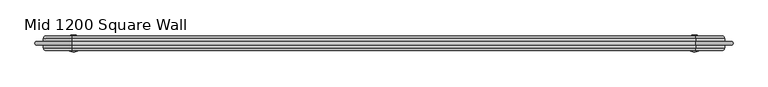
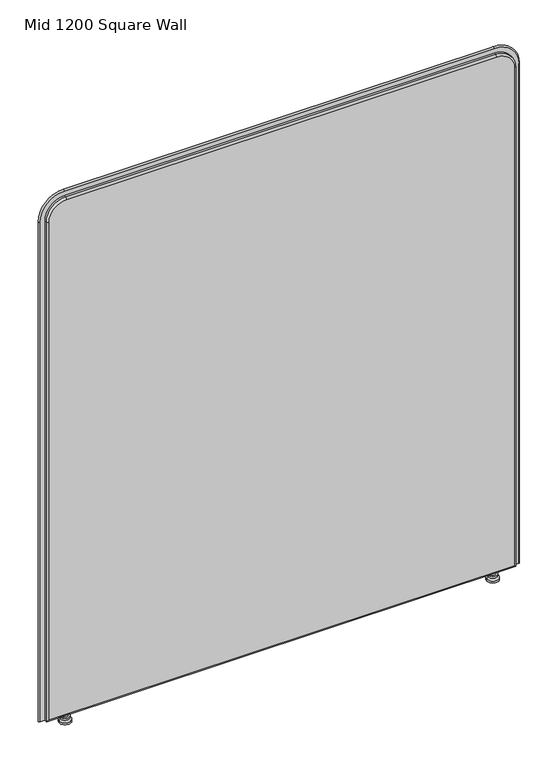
"""IFC4 building model written with IfcOpenShell, lengths in millimetres: furniture geometry, DBLTD_Sixteen3_PrivacyScreens_Artus_Square : Mid 1200 Square Wall."""

from ifc_helpers import new_model, si_unit, point, frame, origin, place, context, project, spatial, polyline, circle_curve, ellipse_curve, trimmed, source, transform, mapped, element, save
from ifc_brep_helpers import plane_surface, cylinder_surface, revolved_surface, advanced_brep


def mid_1200_square_wall_6a94bbc1(model_context):
    return source(origin(), model_context, "Body", "AdvancedBrep", [
        advanced_brep(
        [(542.2938623, -820.0, 22.0), (535.2938623, -820.0, 22.0), (549.2938623, -820.0, 22.0), (535.2938623, -820.0, 15.0), (549.2938623, -820.0, 15.0), (530.8431626, -820.0, 15.0), (553.744562, -820.0, 15.0), (530.8431626, -820.0, 10.0), (553.744562, -820.0, 10.0), (527.2938623, -820.0, 5.0), (557.2938623, -820.0, 5.0), (527.2938623, -820.0, 0.0), (557.2938623, -820.0, 0.0), (542.2938623, -820.0, 0.0)],
        [
            (0, 1),
            (1, 2, circle_curve(frame((542.2938623, -820.0, 22.0), z_axis=(0.0, 0.0, 1.0), x_axis=(1.0, 0.0, 0.0)), 7.0)),
            (2, 0),
            (2, 1, circle_curve(frame((542.2938623, -820.0, 22.0), z_axis=(0.0, 0.0, 1.0), x_axis=(1.0, 0.0, 0.0)), 7.0)),
            (1, 3),
            (3, 4, circle_curve(frame((542.2938623, -820.0, 15.0), z_axis=(0.0, 0.0, 1.0), x_axis=(1.0, 0.0, 0.0)), 7.0)),
            (4, 2),
            (4, 3, circle_curve(frame((542.2938623, -820.0, 15.0), z_axis=(0.0, 0.0, 1.0), x_axis=(1.0, 0.0, 0.0)), 7.0)),
            (3, 5),
            (5, 6, circle_curve(frame((542.2938623, -820.0, 15.0), z_axis=(0.0, 0.0, 1.0), x_axis=(1.0, 0.0, 0.0)), 11.4506997)),
            (6, 4),
            (6, 5, circle_curve(frame((542.2938623, -820.0, 15.0), z_axis=(0.0, 0.0, 1.0), x_axis=(1.0, 0.0, 0.0)), 11.4506997)),
            (5, 7),
            (7, 8, circle_curve(frame((542.2938623, -820.0, 10.0), z_axis=(0.0, 0.0, 1.0), x_axis=(1.0, 0.0, 0.0)), 11.4506997)),
            (8, 6),
            (8, 7, circle_curve(frame((542.2938623, -820.0, 10.0), z_axis=(0.0, 0.0, 1.0), x_axis=(1.0, 0.0, 0.0)), 11.4506997)),
            (7, 9),
            (9, 10, circle_curve(frame((542.2938623, -820.0, 5.0), z_axis=(0.0, 0.0, 1.0), x_axis=(1.0, 0.0, 0.0)), 15.0)),
            (10, 8),
            (10, 9, circle_curve(frame((542.2938623, -820.0, 5.0), z_axis=(0.0, 0.0, 1.0), x_axis=(1.0, 0.0, 0.0)), 15.0)),
            (9, 11),
            (11, 12, circle_curve(frame((542.2938623, -820.0, 0.0), z_axis=(0.0, 0.0, 1.0), x_axis=(1.0, 0.0, 0.0)), 15.0)),
            (12, 10),
            (12, 11, circle_curve(frame((542.2938623, -820.0, 0.0), z_axis=(0.0, 0.0, 1.0), x_axis=(1.0, 0.0, 0.0)), 15.0)),
            (11, 13),
            (13, 12),
        ],
        [
            plane_surface(frame((542.2938623, -820.0, 22.0), z_axis=(0.0, 0.0, 1.0), x_axis=(1.0, 0.0, 0.0))),
            cylinder_surface(frame((542.2938623, -820.0, 5.0), z_axis=(0.0, 0.0, 1.0), x_axis=(1.0, 0.0, 0.0)), 7.0),
            plane_surface(frame((542.2938623, -820.0, 15.0), z_axis=(0.0, 0.0, 1.0), x_axis=(1.0, 0.0, 0.0))),
            cylinder_surface(frame((542.2938623, -820.0, 5.0), z_axis=(0.0, 0.0, 1.0), x_axis=(1.0, 0.0, 0.0)), 11.4506997),
            revolved_surface(polyline([(557.2938623, -820.0, 5.0), (553.744562, -820.0, 10.0)]), (542.2938623, -820.0, 5.0), (0.0, 0.0, 1.0)),
            cylinder_surface(frame((542.2938623, -820.0, 5.0), z_axis=(0.0, 0.0, 1.0), x_axis=(1.0, 0.0, 0.0)), 15.0),
            plane_surface(frame((542.2938623, -820.0, 0.0), z_axis=(0.0, 0.0, -1.0), x_axis=(1.0, 0.0, 0.0))),
        ],
        [
            (0, [[1, 2, 3]]),
            (0, [[-3, 4, -1]]),
            (1, [[5, 6, 7, -2]]),
            (1, [[-7, 8, -5, -4]]),
            (2, [[9, 10, 11, -6]]),
            (2, [[-11, 12, -9, -8]]),
            (3, [[13, 14, 15, -10]]),
            (3, [[-15, 16, -13, -12]]),
            (4, [[17, 18, 19, -14]]),
            (4, [[-19, 20, -17, -16]]),
            (5, [[21, 22, 23, -18]]),
            (5, [[-23, 24, -21, -20]]),
            (6, [[25, 26, -22]]),
            (6, [[-26, -25, -24]]),
        ],
    ),
        advanced_brep(
        [(-535.2938623, -820.0, 22.0), (-542.2938623, -820.0, 22.0), (-549.2938623, -820.0, 22.0), (-535.2938623, -820.0, 15.0), (-549.2938623, -820.0, 15.0), (-530.8431626, -820.0, 15.0), (-553.744562, -820.0, 15.0), (-530.8431626, -820.0, 10.0), (-553.744562, -820.0, 10.0), (-527.2938623, -820.0, 5.0), (-557.2938623, -820.0, 5.0), (-527.2938623, -820.0, 0.0), (-557.2938623, -820.0, 0.0), (-542.2938623, -820.0, 0.0)],
        [
            (0, 1),
            (1, 2),
            (2, 0, circle_curve(frame((-542.2938623, -820.0, 22.0), z_axis=(0.0, 0.0, 1.0), x_axis=(-1.0, 0.0, 0.0)), 7.0)),
            (0, 2, circle_curve(frame((-542.2938623, -820.0, 22.0), z_axis=(0.0, 0.0, 1.0), x_axis=(-1.0, 0.0, 0.0)), 7.0)),
            (3, 0),
            (2, 4),
            (4, 3, circle_curve(frame((-542.2938623, -820.0, 15.0), z_axis=(0.0, 0.0, 1.0), x_axis=(-1.0, 0.0, 0.0)), 7.0)),
            (3, 4, circle_curve(frame((-542.2938623, -820.0, 15.0), z_axis=(0.0, 0.0, 1.0), x_axis=(-1.0, 0.0, 0.0)), 7.0)),
            (5, 3),
            (4, 6),
            (6, 5, circle_curve(frame((-542.2938623, -820.0, 15.0), z_axis=(0.0, 0.0, 1.0), x_axis=(-1.0, 0.0, 0.0)), 11.4506997)),
            (5, 6, circle_curve(frame((-542.2938623, -820.0, 15.0), z_axis=(0.0, 0.0, 1.0), x_axis=(-1.0, 0.0, 0.0)), 11.4506997)),
            (7, 5),
            (6, 8),
            (8, 7, circle_curve(frame((-542.2938623, -820.0, 10.0), z_axis=(0.0, 0.0, 1.0), x_axis=(-1.0, 0.0, 0.0)), 11.4506997)),
            (7, 8, circle_curve(frame((-542.2938623, -820.0, 10.0), z_axis=(0.0, 0.0, 1.0), x_axis=(-1.0, 0.0, 0.0)), 11.4506997)),
            (9, 7),
            (8, 10),
            (10, 9, circle_curve(frame((-542.2938623, -820.0, 5.0), z_axis=(0.0, 0.0, 1.0), x_axis=(-1.0, 0.0, 0.0)), 15.0)),
            (9, 10, circle_curve(frame((-542.2938623, -820.0, 5.0), z_axis=(0.0, 0.0, 1.0), x_axis=(-1.0, 0.0, 0.0)), 15.0)),
            (11, 9),
            (10, 12),
            (12, 11, circle_curve(frame((-542.2938623, -820.0, 0.0), z_axis=(0.0, 0.0, 1.0), x_axis=(-1.0, 0.0, 0.0)), 15.0)),
            (11, 12, circle_curve(frame((-542.2938623, -820.0, 0.0), z_axis=(0.0, 0.0, 1.0), x_axis=(-1.0, 0.0, 0.0)), 15.0)),
            (13, 11),
            (12, 13),
        ],
        [
            plane_surface(frame((-542.2938623, -820.0, 22.0), z_axis=(0.0, 0.0, 1.0), x_axis=(-1.0, 0.0, 0.0))),
            cylinder_surface(frame((-542.2938623, -820.0, 5.0), z_axis=(0.0, 0.0, -1.0), x_axis=(-1.0, 0.0, 0.0)), 7.0),
            plane_surface(frame((-542.2938623, -820.0, 15.0), z_axis=(0.0, 0.0, 1.0), x_axis=(-1.0, 0.0, 0.0))),
            cylinder_surface(frame((-542.2938623, -820.0, 5.0), z_axis=(0.0, 0.0, -1.0), x_axis=(-1.0, 0.0, 0.0)), 11.4506997),
            revolved_surface(polyline([(-553.744562, -820.0, 10.0), (-557.2938623, -820.0, 5.0)]), (-542.2938623, -820.0, 5.0), (0.0, 0.0, -1.0)),
            cylinder_surface(frame((-542.2938623, -820.0, 5.0), z_axis=(0.0, 0.0, -1.0), x_axis=(-1.0, 0.0, 0.0)), 15.0),
            plane_surface(frame((-542.2938623, -820.0, 0.0), z_axis=(0.0, 0.0, -1.0), x_axis=(-1.0, 0.0, 0.0))),
        ],
        [
            (0, [[1, 2, 3]]),
            (0, [[-2, -1, 4]]),
            (1, [[5, -3, 6, 7]]),
            (1, [[-6, -4, -5, 8]]),
            (2, [[9, -7, 10, 11]]),
            (2, [[-10, -8, -9, 12]]),
            (3, [[13, -11, 14, 15]]),
            (3, [[-14, -12, -13, 16]]),
            (4, [[17, -15, 18, 19]]),
            (4, [[-18, -16, -17, 20]]),
            (5, [[21, -19, 22, 23]]),
            (5, [[-22, -20, -21, 24]]),
            (6, [[25, -23, 26]]),
            (6, [[-26, -24, -25]]),
        ],
    ),
        advanced_brep(
        [(-590.0, -807.0, 27.0), (-590.0, -807.0, 1360.0), (-545.0, -807.0, 1405.0), (545.0, -807.0, 1405.0), (590.0, -807.0, 1360.0), (590.0, -807.0, 27.0), (590.0, -833.0, 27.0), (590.0, -833.0, 1360.0), (545.0, -833.0, 1405.0), (-545.0, -833.0, 1405.0), (-590.0, -833.0, 1360.0), (-590.0, -833.0, 27.0), (545.0, -812.0, 1410.0), (-545.0, -812.0, 1410.0), (-545.0, -828.0, 1410.0), (545.0, -828.0, 1410.0), (-595.0, -812.0, 1360.0), (-595.0, -828.0, 1360.0), (-595.0, -812.0, 22.0), (-595.0, -828.0, 22.0), (595.0, -812.0, 22.0), (595.0, -828.0, 22.0), (595.0, -812.0, 1360.0), (595.0, -828.0, 1360.0)],
        [
            (0, 1),
            (1, 2, circle_curve(frame((-545.0, -807.0, 1360.0), z_axis=(0.0, 1.0, 0.0), x_axis=(0.0, 0.0, 1.0)), 45.0)),
            (2, 3),
            (3, 4, circle_curve(frame((545.0, -807.0, 1360.0), z_axis=(0.0, 1.0, 0.0), x_axis=(1.0, 0.0, 0.0)), 45.0)),
            (4, 5),
            (5, 0),
            (6, 7),
            (7, 8, circle_curve(frame((545.0, -833.0, 1360.0), z_axis=(0.0, -1.0, 0.0), x_axis=(1.0, 0.0, 0.0)), 45.0)),
            (8, 9),
            (9, 10, circle_curve(frame((-545.0, -833.0, 1360.0), z_axis=(0.0, -1.0, 0.0), x_axis=(0.0, 0.0, 1.0)), 45.0)),
            (10, 11),
            (11, 6),
            (12, 13),
            (13, 14),
            (14, 15),
            (15, 12),
            (13, 16, circle_curve(frame((-545.0, -812.0, 1360.0), z_axis=(0.0, -1.0, 0.0), x_axis=(1.0, 0.0, 0.0)), 50.0)),
            (16, 17),
            (17, 14, circle_curve(frame((-545.0, -828.0, 1360.0), z_axis=(0.0, 1.0, 0.0), x_axis=(1.0, 0.0, 0.0)), 50.0)),
            (16, 18),
            (18, 19),
            (19, 17),
            (18, 20),
            (20, 21),
            (21, 19),
            (20, 22),
            (22, 23),
            (23, 21),
            (15, 23, circle_curve(frame((545.0, -828.0, 1360.0), z_axis=(0.0, 1.0, 0.0), x_axis=(1.0, 0.0, 0.0)), 50.0)),
            (22, 12, circle_curve(frame((545.0, -812.0, 1360.0), z_axis=(0.0, -1.0, 0.0), x_axis=(1.0, 0.0, 0.0)), 50.0)),
            (18, 0, ellipse_curve(frame((-590.0, -812.0, 27.0), z_axis=(0.7071067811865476, 0.0, -0.7071067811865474), x_axis=(0.7071067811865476, 0.0, 0.7071067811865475)), 7.0710678, 5.0)),
            (5, 20, ellipse_curve(frame((590.0, -812.0, 27.0), z_axis=(-0.7071067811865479, 0.0, -0.707106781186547), x_axis=(0.7071067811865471, 0.0, -0.7071067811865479)), 7.0710678, 5.0)),
            (11, 19, ellipse_curve(frame((-590.0, -828.0, 27.0), z_axis=(0.7071067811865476, 0.0, -0.7071067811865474), x_axis=(0.7071067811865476, 0.0, 0.7071067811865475)), 7.0710678, 5.0)),
            (21, 6, ellipse_curve(frame((590.0, -828.0, 27.0), z_axis=(-0.7071067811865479, 0.0, -0.707106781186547), x_axis=(0.7071067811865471, 0.0, -0.7071067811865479)), 7.0710678, 5.0)),
            (4, 22, circle_curve(frame((590.0, -812.0, 1360.0), z_axis=(0.0, 0.0, -1.0), x_axis=(1.0, 0.0, 0.0)), 5.0)),
            (23, 7, circle_curve(frame((590.0, -828.0, 1360.0), z_axis=(0.0, 0.0, -1.0), x_axis=(1.0, 0.0, 0.0)), 5.0)),
            (3, 12, circle_curve(frame((545.0, -812.0, 1405.0), z_axis=(1.0, 0.0, 0.0), x_axis=(0.0, 0.0, 1.0)), 5.0)),
            (15, 8, circle_curve(frame((545.0, -828.0, 1405.0), z_axis=(1.0, 0.0, 0.0), x_axis=(0.0, 0.0, 1.0)), 5.0)),
            (2, 13, circle_curve(frame((-545.0, -812.0, 1405.0), z_axis=(1.0, 0.0, 0.0), x_axis=(0.0, 0.0, 1.0)), 5.0)),
            (14, 9, circle_curve(frame((-545.0, -828.0, 1405.0), z_axis=(1.0, 0.0, 0.0), x_axis=(0.0, 0.0, 1.0)), 5.0)),
            (1, 16, circle_curve(frame((-590.0, -812.0, 1360.0), z_axis=(0.0, 0.0, 1.0), x_axis=(-1.0, 0.0, 0.0)), 5.0)),
            (17, 10, circle_curve(frame((-590.0, -828.0, 1360.0), z_axis=(0.0, 0.0, 1.0), x_axis=(-1.0, 0.0, 0.0)), 5.0)),
        ],
        [
            plane_surface(frame((-545.0, -807.0, 1410.0), z_axis=(0.0, 1.0, 0.0), x_axis=(-1.0, 0.0, 0.0))),
            plane_surface(frame((-545.0, -833.0, 1410.0), z_axis=(0.0, -1.0, 0.0), x_axis=(1.0, 0.0, 0.0))),
            plane_surface(frame((545.0, -807.0, 1410.0), z_axis=(0.0, 0.0, 1.0), x_axis=(0.0, -1.0, 0.0))),
            cylinder_surface(frame((-545.0, -833.0, 1360.0), z_axis=(0.0, 1.0, 0.0), x_axis=(1.0, 0.0, 0.0)), 50.0),
            plane_surface(frame((-595.0, -807.0, 1360.0), z_axis=(-1.0, 0.0, 0.0), x_axis=(0.0, -1.0, 0.0))),
            plane_surface(frame((-595.0, -807.0, 22.0), z_axis=(0.0, 0.0, -1.0), x_axis=(0.0, -1.0, 0.0))),
            plane_surface(frame((595.0, -807.0, 22.0), z_axis=(1.0, 0.0, 0.0), x_axis=(0.0, -1.0, 0.0))),
            cylinder_surface(frame((545.0, -833.0, 1360.0), z_axis=(0.0, 1.0, 0.0), x_axis=(1.0, 0.0, 0.0)), 50.0),
            cylinder_surface(frame((-595.0, -812.0, 27.0), z_axis=(1.0, 0.0, 0.0), x_axis=(0.0, 0.0, -1.0)), 5.0),
            cylinder_surface(frame((-595.0, -828.0, 27.0), z_axis=(1.0, 0.0, 0.0), x_axis=(0.0, 0.0, -1.0)), 5.0),
            cylinder_surface(frame((590.0, -812.0, 22.0), z_axis=(0.0, 0.0, 1.0), x_axis=(1.0, 0.0, 0.0)), 5.0),
            cylinder_surface(frame((590.0, -828.0, 22.0), z_axis=(0.0, 0.0, 1.0), x_axis=(1.0, 0.0, 0.0)), 5.0),
            revolved_surface(trimmed(ellipse_curve(frame((590.0, -812.0, 1360.0), z_axis=(0.0, 0.0, 1.0), x_axis=(1.0, 0.0, 0.0)), 5.0, 5.0), [point((595.0, -812.0, 1360.0))], [point((590.0, -807.0, 1360.0))], True, "CARTESIAN"), (545.0, -807.0, 1360.0), (0.0, 1.0, 0.0)),
            revolved_surface(trimmed(ellipse_curve(frame((590.0, -828.0, 1360.0), z_axis=(0.0, 0.0, 1.0), x_axis=(1.0, 0.0, 0.0)), 5.0, 5.0), [point((590.0, -833.0, 1360.0))], [point((595.0, -828.0, 1360.0))], True, "CARTESIAN"), (545.0, -807.0, 1360.0), (0.0, 1.0, 0.0)),
            cylinder_surface(frame((545.0, -812.0, 1405.0), z_axis=(-1.0, 0.0, 0.0), x_axis=(0.0, 0.0, 1.0)), 5.0),
            cylinder_surface(frame((545.0, -828.0, 1405.0), z_axis=(-1.0, 0.0, 0.0), x_axis=(0.0, 0.0, 1.0)), 5.0),
            revolved_surface(trimmed(ellipse_curve(frame((-545.0, -812.0, 1405.0), z_axis=(-1.0, 0.0, 0.0), x_axis=(0.0, 0.0, 1.0)), 5.0, 5.0), [point((-545.0, -812.0, 1410.0))], [point((-545.0, -807.0, 1405.0))], True, "CARTESIAN"), (-545.0, -807.0, 1360.0), (0.0, 1.0, 0.0)),
            revolved_surface(trimmed(ellipse_curve(frame((-545.0, -828.0, 1405.0), z_axis=(-1.0, 0.0, 0.0), x_axis=(0.0, 0.0, 1.0)), 5.0, 5.0), [point((-545.0, -833.0, 1405.0))], [point((-545.0, -828.0, 1410.0))], True, "CARTESIAN"), (-545.0, -807.0, 1360.0), (0.0, 1.0, 0.0)),
            cylinder_surface(frame((-590.0, -812.0, 1360.0), z_axis=(0.0, 0.0, -1.0), x_axis=(-1.0, 0.0, 0.0)), 5.0),
            cylinder_surface(frame((-590.0, -828.0, 1360.0), z_axis=(0.0, 0.0, -1.0), x_axis=(-1.0, 0.0, 0.0)), 5.0),
        ],
        [
            (0, [[1, 2, 3, 4, 5, 6]]),
            (1, [[7, 8, 9, 10, 11, 12]]),
            (2, [[13, 14, 15, 16]]),
            (3, [[17, 18, 19, -14]]),
            (4, [[20, 21, 22, -18]]),
            (5, [[23, 24, 25, -21]]),
            (6, [[26, 27, 28, -24]]),
            (7, [[29, -27, 30, -16]]),
            (8, [[-23, 31, -6, 32]]),
            (9, [[-12, 33, -25, 34]]),
            (10, [[-5, 35, -26, -32]]),
            (11, [[-28, 36, -7, -34]]),
            (12, [[-4, 37, -30, -35]]),
            (13, [[-29, 38, -8, -36]]),
            (14, [[-3, 39, -13, -37]]),
            (15, [[-15, 40, -9, -38]]),
            (16, [[-2, 41, -17, -39]]),
            (17, [[-19, 42, -10, -40]]),
            (18, [[-20, -41, -1, -31]]),
            (19, [[-11, -42, -22, -33]]),
        ],
    ),
        advanced_brep(
        [(606.9577057, -823.0, 22.0), (595.0, -823.0, 22.0), (595.0, -817.0, 22.0), (606.9577057, -817.0, 22.0), (606.9577057, -817.0, 1360.0), (606.9577057, -823.0, 1360.0), (595.0, -817.0, 1360.0), (545.0, -817.0, 1410.0), (-545.0, -817.0, 1410.0), (-595.0, -817.0, 1360.0), (-595.0, -817.0, 22.0), (-606.9577057, -817.0, 22.0), (-606.9577057, -817.0, 1360.0), (-545.0, -817.0, 1421.9577057), (545.0, -817.0, 1421.9577057), (595.0, -823.0, 1360.0), (545.0, -823.0, 1421.9577057), (-545.0, -823.0, 1421.9577057), (-606.9577057, -823.0, 1360.0), (-606.9577057, -823.0, 22.0), (-595.0, -823.0, 22.0), (-595.0, -823.0, 1360.0), (-545.0, -823.0, 1410.0), (545.0, -823.0, 1410.0)],
        [
            (0, 1),
            (1, 2),
            (2, 3),
            (3, 0, circle_curve(frame((606.9577057, -820.0, 22.0), z_axis=(0.0, 0.0, -1.0), x_axis=(1.0, 0.0, 0.0)), 3.0)),
            (3, 4),
            (4, 5, circle_curve(frame((606.9577057, -820.0, 1360.0), z_axis=(0.0, 0.0, -1.0), x_axis=(1.0, 0.0, 0.0)), 3.0)),
            (5, 0),
            (2, 6),
            (6, 7, circle_curve(frame((545.0, -817.0, 1360.0), z_axis=(0.0, -1.0, 0.0), x_axis=(1.0, 0.0, 0.0)), 50.0)),
            (7, 8),
            (8, 9, circle_curve(frame((-545.0, -817.0, 1360.0), z_axis=(0.0, -1.0, 0.0), x_axis=(0.0, 0.0, 1.0)), 50.0)),
            (9, 10),
            (10, 11),
            (11, 12),
            (12, 13, circle_curve(frame((-545.0, -817.0, 1360.0), z_axis=(0.0, 1.0, 0.0), x_axis=(0.0, 0.0, 1.0)), 61.9577057)),
            (13, 14),
            (14, 4, circle_curve(frame((545.0, -817.0, 1360.0), z_axis=(0.0, 1.0, 0.0), x_axis=(1.0, 0.0, 0.0)), 61.9577057)),
            (1, 15),
            (15, 6),
            (5, 16, circle_curve(frame((545.0, -823.0, 1360.0), z_axis=(0.0, -1.0, 0.0), x_axis=(1.0, 0.0, 0.0)), 61.9577057)),
            (16, 17),
            (17, 18, circle_curve(frame((-545.0, -823.0, 1360.0), z_axis=(0.0, -1.0, 0.0), x_axis=(0.0, 0.0, 1.0)), 61.9577057)),
            (18, 19),
            (19, 20),
            (20, 21),
            (21, 22, circle_curve(frame((-545.0, -823.0, 1360.0), z_axis=(0.0, 1.0, 0.0), x_axis=(0.0, 0.0, 1.0)), 50.0)),
            (22, 23),
            (23, 15, circle_curve(frame((545.0, -823.0, 1360.0), z_axis=(0.0, 1.0, 0.0), x_axis=(1.0, 0.0, 0.0)), 50.0)),
            (14, 16, circle_curve(frame((545.0, -820.0, 1421.9577057), z_axis=(1.0, 0.0, 0.0), x_axis=(0.0, 0.0, 1.0)), 3.0)),
            (23, 7),
            (13, 17, circle_curve(frame((-545.0, -820.0, 1421.9577057), z_axis=(1.0, 0.0, 0.0), x_axis=(0.0, 0.0, 1.0)), 3.0)),
            (22, 8),
            (12, 18, circle_curve(frame((-606.9577057, -820.0, 1360.0), z_axis=(0.0, 0.0, 1.0), x_axis=(-1.0, 0.0, 0.0)), 3.0)),
            (21, 9),
            (19, 11, circle_curve(frame((-606.9577057, -820.0, 22.0), z_axis=(0.0, 0.0, -1.0), x_axis=(-1.0, 0.0, 0.0)), 3.0)),
            (10, 20),
        ],
        [
            plane_surface(frame((595.0, -807.0, 22.0), z_axis=(0.0, 0.0, -1.0), x_axis=(1.0, 0.0, 0.0))),
            cylinder_surface(frame((606.9577057, -820.0, 22.0), z_axis=(0.0, 0.0, -1.0), x_axis=(1.0, 0.0, 0.0)), 3.0),
            plane_surface(frame((606.9577057, -817.0, 22.0), z_axis=(0.0, 1.0, 0.0), x_axis=(0.0, 0.0, 1.0))),
            plane_surface(frame((595.0, -817.0, 22.0), z_axis=(-1.0, 0.0, 0.0), x_axis=(0.0, 0.0, 1.0))),
            plane_surface(frame((595.0, -823.0, 22.0), z_axis=(0.0, -1.0, 0.0), x_axis=(0.0, 0.0, 1.0))),
            revolved_surface(trimmed(ellipse_curve(frame((606.9577057, -820.0, 1360.0), z_axis=(0.0, 0.0, 1.0), x_axis=(1.0, 0.0, 0.0)), 3.0, 3.0), [point((606.9577057, -823.0, 1360.0))], [point((606.9577057, -817.0, 1360.0))], True, "CARTESIAN"), (545.0, -807.0, 1360.0), (0.0, 1.0, 0.0)),
            revolved_surface(polyline([(595.0, -817.0, 1360.0), (595.0, -823.0, 1360.0)]), (545.0, -807.0, 1360.0), (0.0, 1.0, 0.0)),
            cylinder_surface(frame((545.0, -820.0, 1421.9577057), z_axis=(1.0, 0.0, 0.0), x_axis=(0.0, 0.0, 1.0)), 3.0),
            plane_surface(frame((545.0, -817.0, 1410.0), z_axis=(0.0, 0.0, -1.0), x_axis=(-1.0, 0.0, 0.0))),
            revolved_surface(trimmed(ellipse_curve(frame((-545.0, -820.0, 1421.9577057), z_axis=(-1.0, 0.0, 0.0), x_axis=(0.0, 0.0, 1.0)), 3.0, 3.0), [point((-545.0, -823.0, 1421.9577057))], [point((-545.0, -817.0, 1421.9577057))], True, "CARTESIAN"), (-545.0, -807.0, 1360.0), (0.0, 1.0, 0.0)),
            revolved_surface(polyline([(-545.0, -817.0, 1410.0), (-545.0, -823.0, 1410.0)]), (-545.0, -807.0, 1360.0), (0.0, 1.0, 0.0)),
            plane_surface(frame((-595.0, -807.0, 22.0), z_axis=(0.0, 0.0, -1.0), x_axis=(-1.0, 0.0, 0.0))),
            cylinder_surface(frame((-606.9577057, -820.0, 1360.0), z_axis=(0.0, 0.0, 1.0), x_axis=(-1.0, 0.0, 0.0)), 3.0),
            plane_surface(frame((-595.0, -817.0, 1360.0), z_axis=(1.0, 0.0, 0.0), x_axis=(0.0, 0.0, -1.0))),
        ],
        [
            (0, [[1, 2, 3, 4]]),
            (1, [[5, 6, 7, -4]]),
            (2, [[8, 9, 10, 11, 12, 13, 14, 15, 16, 17, -5, -3]]),
            (3, [[18, 19, -8, -2]]),
            (4, [[-7, 20, 21, 22, 23, 24, 25, 26, 27, 28, -18, -1]]),
            (5, [[29, -20, -6, -17]]),
            (6, [[30, -9, -19, -28]]),
            (7, [[-16, 31, -21, -29]]),
            (8, [[-27, 32, -10, -30]]),
            (9, [[33, -22, -31, -15]]),
            (10, [[34, -11, -32, -26]]),
            (11, [[35, -13, 36, -24]]),
            (12, [[-14, -35, -23, -33]]),
            (13, [[-25, -36, -12, -34]]),
        ],
    ),
    ])


if __name__ == "__main__":
    model = new_model("IFC4")
    model_context = context("Model", 3, world=origin())
    ifc_project = project(units=[si_unit("LENGTHUNIT", "METRE", prefix="MILLI")], contexts=[model_context])
    site = spatial("IfcSite", under=ifc_project)
    building = spatial("IfcBuilding", under=site)
    placement = place(None, origin())
    mid_1200_square_wall_shape = mid_1200_square_wall_6a94bbc1(model_context)
    element("IfcFurniture", 1, ObjectType="DBLTD_Sixteen3_PrivacyScreens_Artus_Square : Mid 1200 Square Wall", at=placement, inside=building, context=model_context, shape_type="MappedRepresentation", body=[
        mapped(mid_1200_square_wall_shape, transform((0.0, 0.0, 0.0), x_axis=(1.0, 0.0, 0.0), y_axis=(0.0, 1.0, 0.0), z_axis=(0.0, 0.0, 1.0))),
    ])
    save(model, "model.ifc")
